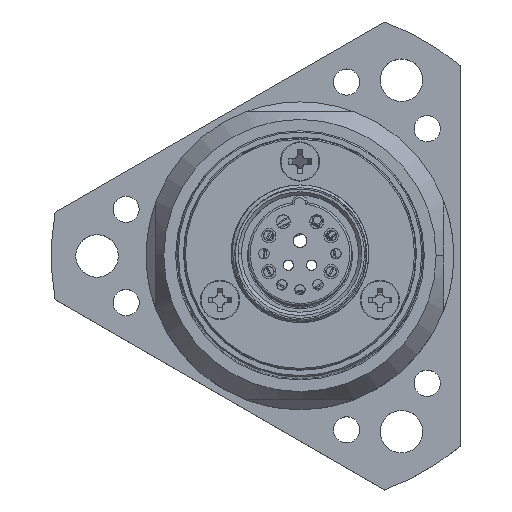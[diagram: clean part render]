
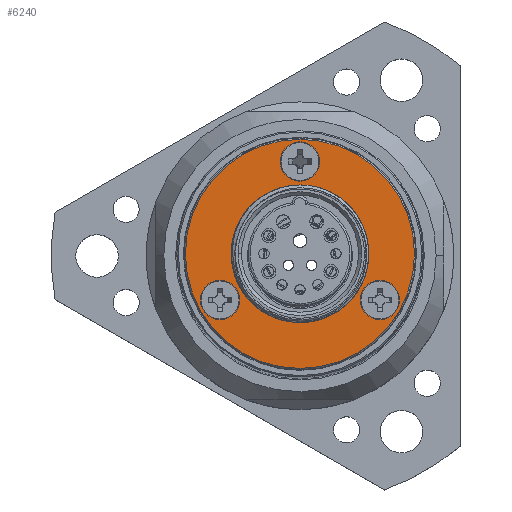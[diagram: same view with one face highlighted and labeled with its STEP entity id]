
A CAD part, top view. The second image highlights one B-rep face of the part: STEP entity #6240.
In plain terms, the highlighted planar face has unit normal (0, 0, 1).
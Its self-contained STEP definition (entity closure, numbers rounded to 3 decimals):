
#516 = DIRECTION ( 'NONE',  ( 0., 0., -1. ) ) ;
#1288 = ORIENTED_EDGE ( 'NONE', *, *, #11615, .T. ) ;
#1308 = DIRECTION ( 'NONE',  ( 1., 0., 0. ) ) ;
#1381 = AXIS2_PLACEMENT_3D ( 'NONE', #3005, #7699, #1308 ) ;
#1494 = VERTEX_POINT ( 'NONE', #18126 ) ;
#1545 = AXIS2_PLACEMENT_3D ( 'NONE', #11861, #8457, #10478 ) ;
#1551 = VERTEX_POINT ( 'NONE', #3414 ) ;
#1786 = DIRECTION ( 'NONE',  ( 1., 0., 0. ) ) ;
#2083 = ORIENTED_EDGE ( 'NONE', *, *, #3908, .F. ) ;
#2127 = EDGE_CURVE ( 'NONE', #20878, #17708, #11706, .T. ) ;
#2263 = CIRCLE ( 'NONE', #3613, 2.9 ) ;
#2724 = DIRECTION ( 'NONE',  ( 1., 0., 0. ) ) ;
#2783 = CARTESIAN_POINT ( 'NONE',  ( 2.9, 14.1, 194.05 ) ) ;
#3005 = CARTESIAN_POINT ( 'NONE',  ( -12.211, -7.05, 194.05 ) ) ;
#3414 = CARTESIAN_POINT ( 'NONE',  ( -15.111, -7.05, 194.05 ) ) ;
#3613 = AXIS2_PLACEMENT_3D ( 'NONE', #19915, #516, #5310 ) ;
#3834 = EDGE_CURVE ( 'NONE', #4216, #15161, #15148, .T. ) ;
#3908 = EDGE_CURVE ( 'NONE', #4228, #13997, #20259, .T. ) ;
#4176 = EDGE_CURVE ( 'NONE', #17708, #20878, #20974, .T. ) ;
#4216 = VERTEX_POINT ( 'NONE', #19002 ) ;
#4228 = VERTEX_POINT ( 'NONE', #20585 ) ;
#4389 = DIRECTION ( 'NONE',  ( 1., 0., 0. ) ) ;
#5310 = DIRECTION ( 'NONE',  ( 1., 0., 0. ) ) ;
#5371 = CARTESIAN_POINT ( 'NONE',  ( -12.211, -7.05, 194.05 ) ) ;
#5481 = EDGE_LOOP ( 'NONE', ( #12602, #9355 ) ) ;
#5530 = EDGE_CURVE ( 'NONE', #1551, #6460, #9214, .T. ) ;
#6029 = CIRCLE ( 'NONE', #19659, 10.5 ) ;
#6240 = ADVANCED_FACE ( 'NONE', ( #16402, #7985, #8094, #17586, #12890 ), #6275, .T. ) ;
#6275 = PLANE ( 'NONE',  #14289 ) ;
#6409 = CARTESIAN_POINT ( 'NONE',  ( 0., 0., 194.05 ) ) ;
#6460 = VERTEX_POINT ( 'NONE', #20216 ) ;
#7695 = AXIS2_PLACEMENT_3D ( 'NONE', #15901, #14304, #4389 ) ;
#7699 = DIRECTION ( 'NONE',  ( 0., 0., -1. ) ) ;
#7825 = CARTESIAN_POINT ( 'NONE',  ( 17.5, 0., 194.05 ) ) ;
#7985 = FACE_BOUND ( 'NONE', #15436, .T. ) ;
#8041 = AXIS2_PLACEMENT_3D ( 'NONE', #17255, #20126, #17144 ) ;
#8094 = FACE_BOUND ( 'NONE', #5481, .T. ) ;
#8457 = DIRECTION ( 'NONE',  ( 0., 0., -1. ) ) ;
#8694 = CIRCLE ( 'NONE', #17894, 10.5 ) ;
#9208 = EDGE_CURVE ( 'NONE', #10273, #1494, #6029, .T. ) ;
#9214 = CIRCLE ( 'NONE', #1381, 2.9 ) ;
#9355 = ORIENTED_EDGE ( 'NONE', *, *, #5530, .T. ) ;
#9468 = AXIS2_PLACEMENT_3D ( 'NONE', #5371, #16462, #10381 ) ;
#9488 = DIRECTION ( 'NONE',  ( 1., 0., 0. ) ) ;
#9806 = DIRECTION ( 'NONE',  ( 0., 0., 1. ) ) ;
#10273 = VERTEX_POINT ( 'NONE', #11306 ) ;
#10381 = DIRECTION ( 'NONE',  ( 1., 0., 0. ) ) ;
#10429 = ORIENTED_EDGE ( 'NONE', *, *, #9208, .T. ) ;
#10478 = DIRECTION ( 'NONE',  ( 1., 0., 0. ) ) ;
#10833 = CARTESIAN_POINT ( 'NONE',  ( 0., 0., 194.05 ) ) ;
#11025 = EDGE_CURVE ( 'NONE', #13997, #4228, #17233, .T. ) ;
#11306 = CARTESIAN_POINT ( 'NONE',  ( -10.5, 0., 194.05 ) ) ;
#11319 = DIRECTION ( 'NONE',  ( 0., 0., -1. ) ) ;
#11615 = EDGE_CURVE ( 'NONE', #15161, #4216, #2263, .T. ) ;
#11706 = CIRCLE ( 'NONE', #14770, 2.9 ) ;
#11861 = CARTESIAN_POINT ( 'NONE',  ( 12.211, -7.05, 194.05 ) ) ;
#12602 = ORIENTED_EDGE ( 'NONE', *, *, #17056, .T. ) ;
#12888 = EDGE_CURVE ( 'NONE', #1494, #10273, #8694, .T. ) ;
#12890 = FACE_OUTER_BOUND ( 'NONE', #13587, .T. ) ;
#13010 = ORIENTED_EDGE ( 'NONE', *, *, #4176, .T. ) ;
#13587 = EDGE_LOOP ( 'NONE', ( #2083, #14494 ) ) ;
#13997 = VERTEX_POINT ( 'NONE', #7825 ) ;
#14230 = CIRCLE ( 'NONE', #9468, 2.9 ) ;
#14289 = AXIS2_PLACEMENT_3D ( 'NONE', #14791, #9806, #9488 ) ;
#14304 = DIRECTION ( 'NONE',  ( 0., 0., -1. ) ) ;
#14494 = ORIENTED_EDGE ( 'NONE', *, *, #11025, .F. ) ;
#14693 = DIRECTION ( 'NONE',  ( 1., 0., 0. ) ) ;
#14770 = AXIS2_PLACEMENT_3D ( 'NONE', #20970, #19276, #1786 ) ;
#14791 = CARTESIAN_POINT ( 'NONE',  ( 0., 0., 194.05 ) ) ;
#15148 = CIRCLE ( 'NONE', #1545, 2.9 ) ;
#15161 = VERTEX_POINT ( 'NONE', #20546 ) ;
#15196 = AXIS2_PLACEMENT_3D ( 'NONE', #6409, #11319, #16423 ) ;
#15436 = EDGE_LOOP ( 'NONE', ( #17001, #1288 ) ) ;
#15901 = CARTESIAN_POINT ( 'NONE',  ( 0., 14.1, 194.05 ) ) ;
#15974 = CARTESIAN_POINT ( 'NONE',  ( 0., 0., 194.05 ) ) ;
#16402 = FACE_BOUND ( 'NONE', #19737, .T. ) ;
#16423 = DIRECTION ( 'NONE',  ( -1., 0., 0. ) ) ;
#16462 = DIRECTION ( 'NONE',  ( 0., 0., -1. ) ) ;
#17001 = ORIENTED_EDGE ( 'NONE', *, *, #3834, .T. ) ;
#17056 = EDGE_CURVE ( 'NONE', #6460, #1551, #14230, .T. ) ;
#17144 = DIRECTION ( 'NONE',  ( -1., 0., 0. ) ) ;
#17233 = CIRCLE ( 'NONE', #8041, 17.5 ) ;
#17255 = CARTESIAN_POINT ( 'NONE',  ( 0., 0., 194.05 ) ) ;
#17330 = DIRECTION ( 'NONE',  ( 0., 0., -1. ) ) ;
#17575 = DIRECTION ( 'NONE',  ( 0., 0., -1. ) ) ;
#17586 = FACE_BOUND ( 'NONE', #18711, .T. ) ;
#17708 = VERTEX_POINT ( 'NONE', #2783 ) ;
#17894 = AXIS2_PLACEMENT_3D ( 'NONE', #15974, #17575, #14693 ) ;
#18126 = CARTESIAN_POINT ( 'NONE',  ( 10.5, 0., 194.05 ) ) ;
#18544 = CARTESIAN_POINT ( 'NONE',  ( -2.9, 14.1, 194.05 ) ) ;
#18711 = EDGE_LOOP ( 'NONE', ( #13010, #19523 ) ) ;
#19002 = CARTESIAN_POINT ( 'NONE',  ( 15.111, -7.05, 194.05 ) ) ;
#19276 = DIRECTION ( 'NONE',  ( 0., 0., -1. ) ) ;
#19523 = ORIENTED_EDGE ( 'NONE', *, *, #2127, .T. ) ;
#19659 = AXIS2_PLACEMENT_3D ( 'NONE', #10833, #17330, #2724 ) ;
#19737 = EDGE_LOOP ( 'NONE', ( #20165, #10429 ) ) ;
#19915 = CARTESIAN_POINT ( 'NONE',  ( 12.211, -7.05, 194.05 ) ) ;
#20126 = DIRECTION ( 'NONE',  ( 0., 0., -1. ) ) ;
#20165 = ORIENTED_EDGE ( 'NONE', *, *, #12888, .T. ) ;
#20216 = CARTESIAN_POINT ( 'NONE',  ( -9.311, -7.05, 194.05 ) ) ;
#20259 = CIRCLE ( 'NONE', #15196, 17.5 ) ;
#20546 = CARTESIAN_POINT ( 'NONE',  ( 9.311, -7.05, 194.05 ) ) ;
#20585 = CARTESIAN_POINT ( 'NONE',  ( -17.5, 0., 194.05 ) ) ;
#20878 = VERTEX_POINT ( 'NONE', #18544 ) ;
#20970 = CARTESIAN_POINT ( 'NONE',  ( 0., 14.1, 194.05 ) ) ;
#20974 = CIRCLE ( 'NONE', #7695, 2.9 ) ;
